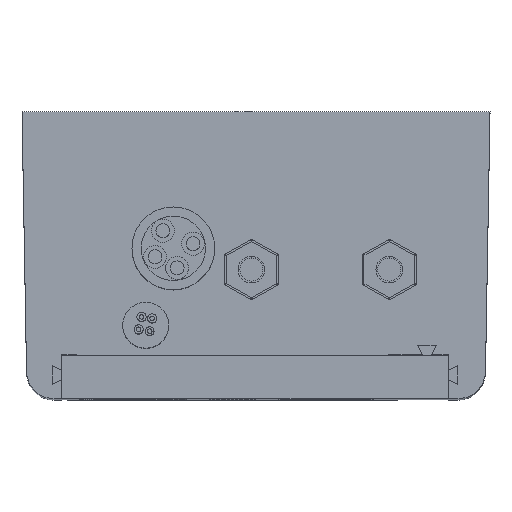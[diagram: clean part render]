
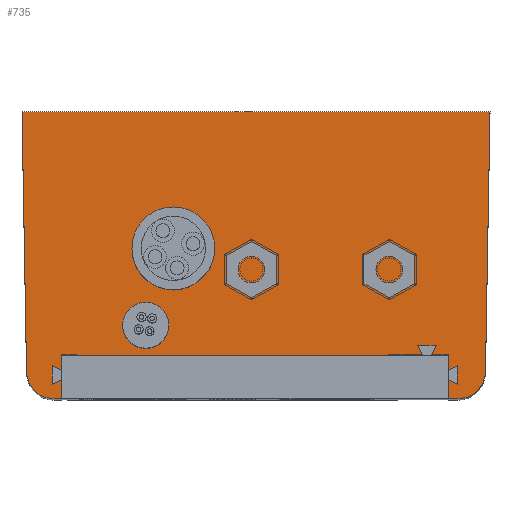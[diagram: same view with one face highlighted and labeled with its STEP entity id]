
A CAD part, top view. The second image highlights one B-rep face of the part: STEP entity #735.
In plain terms, the highlighted planar face has unit normal (0, 0, 1).
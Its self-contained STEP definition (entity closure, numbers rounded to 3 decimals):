
#1 = VERTEX_POINT ( 'NONE', #1684 ) ;
#184 = EDGE_LOOP ( 'NONE', ( #3997, #846, #11658, #2971, #2023, #4912, #7237, #965, #7702, #11221 ) ) ;
#380 = DIRECTION ( 'NONE',  ( 1., 0., 0. ) ) ;
#493 = CARTESIAN_POINT ( 'NONE',  ( -24.56, -0.429, 0. ) ) ;
#735 = ADVANCED_FACE ( 'NONE', ( #1581 ), #11019, .T. ) ;
#805 = AXIS2_PLACEMENT_3D ( 'NONE', #8249, #3602, #4515 ) ;
#846 = ORIENTED_EDGE ( 'NONE', *, *, #10220, .T. ) ;
#965 = ORIENTED_EDGE ( 'NONE', *, *, #11448, .F. ) ;
#968 = LINE ( 'NONE', #6091, #8681 ) ;
#1278 = CARTESIAN_POINT ( 'NONE',  ( -20.587, -12.219, 0. ) ) ;
#1518 = CARTESIAN_POINT ( 'NONE',  ( -20.587, -7.469, 0. ) ) ;
#1581 = FACE_OUTER_BOUND ( 'NONE', #184, .T. ) ;
#1684 = CARTESIAN_POINT ( 'NONE',  ( 21.473, -12.219, 0. ) ) ;
#1755 = LINE ( 'NONE', #4632, #4836 ) ;
#1855 = CARTESIAN_POINT ( 'NONE',  ( 22.532, -12.219, 0. ) ) ;
#2023 = ORIENTED_EDGE ( 'NONE', *, *, #3305, .T. ) ;
#2487 = CIRCLE ( 'NONE', #11862, 3. ) ;
#2971 = ORIENTED_EDGE ( 'NONE', *, *, #5012, .T. ) ;
#3305 = EDGE_CURVE ( 'NONE', #9029, #9264, #7439, .T. ) ;
#3314 = CARTESIAN_POINT ( 'NONE',  ( -21.406, -12.219, 0. ) ) ;
#3504 = DIRECTION ( 'NONE',  ( 0.017, 1., 0. ) ) ;
#3550 = LINE ( 'NONE', #8559, #6319 ) ;
#3602 = DIRECTION ( 'NONE',  ( 0., 0., 1. ) ) ;
#3997 = ORIENTED_EDGE ( 'NONE', *, *, #11548, .T. ) ;
#4386 = VECTOR ( 'NONE', #5729, 1000. ) ;
#4511 = VERTEX_POINT ( 'NONE', #3314 ) ;
#4515 = DIRECTION ( 'NONE',  ( 1., 0., 0. ) ) ;
#4632 = CARTESIAN_POINT ( 'NONE',  ( 21.473, -12.219, 0. ) ) ;
#4836 = VECTOR ( 'NONE', #8245, 1000. ) ;
#4912 = ORIENTED_EDGE ( 'NONE', *, *, #10699, .T. ) ;
#4945 = VERTEX_POINT ( 'NONE', #1855 ) ;
#5012 = EDGE_CURVE ( 'NONE', #11507, #9029, #3550, .T. ) ;
#5237 = CARTESIAN_POINT ( 'NONE',  ( -24.437, -12.219, 0. ) ) ;
#5729 = DIRECTION ( 'NONE',  ( -1., 0., 0. ) ) ;
#5851 = DIRECTION ( 'NONE',  ( 0., 0., 1. ) ) ;
#6091 = CARTESIAN_POINT ( 'NONE',  ( -24.437, -12.219, 0. ) ) ;
#6140 = CARTESIAN_POINT ( 'NONE',  ( -24.9, 19.031, 0. ) ) ;
#6270 = CARTESIAN_POINT ( 'NONE',  ( 25.685, -0.448, 0. ) ) ;
#6319 = VECTOR ( 'NONE', #10316, 1000. ) ;
#6623 = VERTEX_POINT ( 'NONE', #11263 ) ;
#6658 = AXIS2_PLACEMENT_3D ( 'NONE', #7633, #5851, #8606 ) ;
#6779 = VECTOR ( 'NONE', #6974, 1000. ) ;
#6918 = VERTEX_POINT ( 'NONE', #9789 ) ;
#6974 = DIRECTION ( 'NONE',  ( 1., 0., 0. ) ) ;
#7134 = DIRECTION ( 'NONE',  ( 1., 0., 0. ) ) ;
#7147 = LINE ( 'NONE', #8526, #4386 ) ;
#7212 = VERTEX_POINT ( 'NONE', #1518 ) ;
#7237 = ORIENTED_EDGE ( 'NONE', *, *, #10851, .T. ) ;
#7319 = CARTESIAN_POINT ( 'NONE',  ( -24.406, -9.271, 0. ) ) ;
#7374 = LINE ( 'NONE', #9868, #10419 ) ;
#7439 = LINE ( 'NONE', #493, #10487 ) ;
#7633 = CARTESIAN_POINT ( 'NONE',  ( -21.406, -9.219, 0. ) ) ;
#7702 = ORIENTED_EDGE ( 'NONE', *, *, #10445, .F. ) ;
#8026 = LINE ( 'NONE', #6270, #11479 ) ;
#8039 = CARTESIAN_POINT ( 'NONE',  ( 26.025, 19.031, 0. ) ) ;
#8073 = CARTESIAN_POINT ( 'NONE',  ( 22.532, -9.219, 0. ) ) ;
#8245 = DIRECTION ( 'NONE',  ( 0., 1., 0. ) ) ;
#8249 = CARTESIAN_POINT ( 'NONE',  ( 0., 0., 0. ) ) ;
#8526 = CARTESIAN_POINT ( 'NONE',  ( -20.587, -7.469, 0. ) ) ;
#8559 = CARTESIAN_POINT ( 'NONE',  ( -24.437, 19.031, 0. ) ) ;
#8606 = DIRECTION ( 'NONE',  ( 1., 0., 0. ) ) ;
#8681 = VECTOR ( 'NONE', #380, 1000. ) ;
#8883 = DIRECTION ( 'NONE',  ( 0., -1., 0. ) ) ;
#8974 = LINE ( 'NONE', #5237, #6779 ) ;
#9029 = VERTEX_POINT ( 'NONE', #6140 ) ;
#9264 = VERTEX_POINT ( 'NONE', #7319 ) ;
#9708 = DIRECTION ( 'NONE',  ( 0.017, -1., 0. ) ) ;
#9769 = EDGE_CURVE ( 'NONE', #1, #6918, #1755, .T. ) ;
#9789 = CARTESIAN_POINT ( 'NONE',  ( 21.473, -7.469, 0. ) ) ;
#9868 = CARTESIAN_POINT ( 'NONE',  ( -20.587, -12.219, 0. ) ) ;
#10165 = EDGE_CURVE ( 'NONE', #6623, #11507, #8026, .T. ) ;
#10220 = EDGE_CURVE ( 'NONE', #4945, #6623, #2487, .T. ) ;
#10316 = DIRECTION ( 'NONE',  ( -1., 0., 0. ) ) ;
#10419 = VECTOR ( 'NONE', #8883, 1000. ) ;
#10445 = EDGE_CURVE ( 'NONE', #6918, #7212, #7147, .T. ) ;
#10487 = VECTOR ( 'NONE', #9708, 1000. ) ;
#10699 = EDGE_CURVE ( 'NONE', #9264, #4511, #11439, .T. ) ;
#10851 = EDGE_CURVE ( 'NONE', #4511, #11407, #968, .T. ) ;
#10962 = DIRECTION ( 'NONE',  ( 0., 0., 1. ) ) ;
#11019 = PLANE ( 'NONE',  #805 ) ;
#11221 = ORIENTED_EDGE ( 'NONE', *, *, #9769, .F. ) ;
#11263 = CARTESIAN_POINT ( 'NONE',  ( 25.531, -9.271, 0. ) ) ;
#11407 = VERTEX_POINT ( 'NONE', #1278 ) ;
#11439 = CIRCLE ( 'NONE', #6658, 3. ) ;
#11448 = EDGE_CURVE ( 'NONE', #7212, #11407, #7374, .T. ) ;
#11479 = VECTOR ( 'NONE', #3504, 1000. ) ;
#11507 = VERTEX_POINT ( 'NONE', #8039 ) ;
#11548 = EDGE_CURVE ( 'NONE', #1, #4945, #8974, .T. ) ;
#11658 = ORIENTED_EDGE ( 'NONE', *, *, #10165, .T. ) ;
#11862 = AXIS2_PLACEMENT_3D ( 'NONE', #8073, #10962, #7134 ) ;
